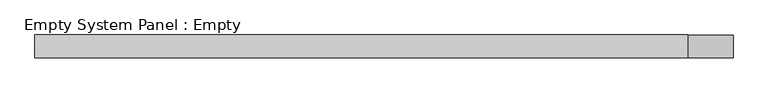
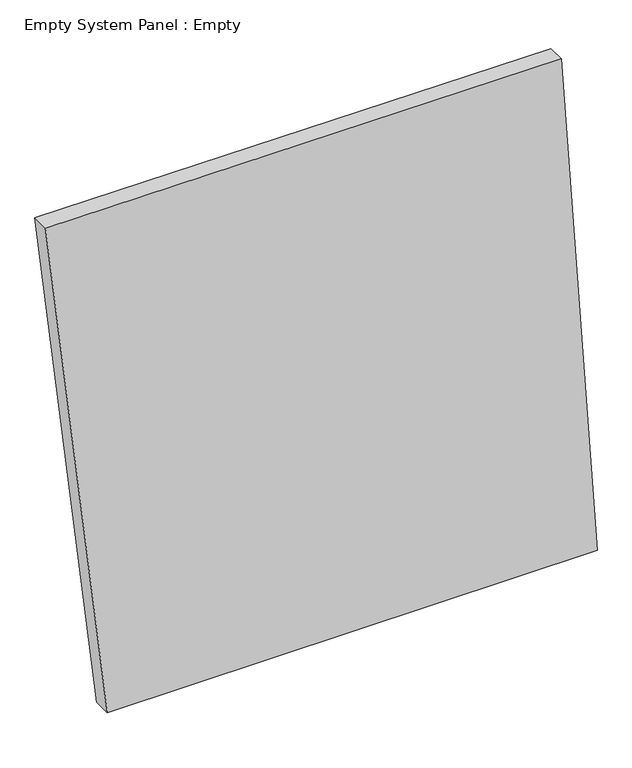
"""IFC4 building model written with IfcOpenShell, lengths in millimetres: plate geometry, Empty System Panel : Empty."""

from ifc_helpers import new_model, si_unit, frame, origin, place, context, project, spatial, polyline, outline, extrude, source, transform, mapped, element, save


def empty_system_panel_empty_eceee1d3(model_context):
    return source(origin(), model_context, "Body", "SweptSolid", [
        extrude(outline(polyline([(0.0, -1204.0601616), (0.0, 1552.3717651), (2991.1790409, 1350.241228), (3001.8114209, -1552.3717651), (0.0, -1204.0601616)])), frame((0.0, -50.8, 0.0), z_axis=(0.0, 1.0, 0.0), x_axis=(0.0, 0.0, 1.0)), (0.0, 0.0, 1.0), 101.6),
    ])


if __name__ == "__main__":
    model = new_model("IFC4")
    model_context = context("Model", 3, world=origin())
    ifc_project = project(units=[si_unit("LENGTHUNIT", "METRE", prefix="MILLI")], contexts=[model_context])
    site = spatial("IfcSite", under=ifc_project)
    building = spatial("IfcBuilding", under=site)
    placement = place(None, origin())
    empty_system_panel_empty_shape = empty_system_panel_empty_eceee1d3(model_context)
    element("IfcPlate", 1, ObjectType="Empty System Panel : Empty", at=placement, inside=building, context=model_context, shape_type="MappedRepresentation", body=[
        mapped(empty_system_panel_empty_shape, transform((0.0, 0.0, 0.0), x_axis=(1.0, 0.0, 0.0), y_axis=(0.0, 1.0, 0.0), z_axis=(0.0, 0.0, 1.0))),
    ])
    save(model, "model.ifc")
